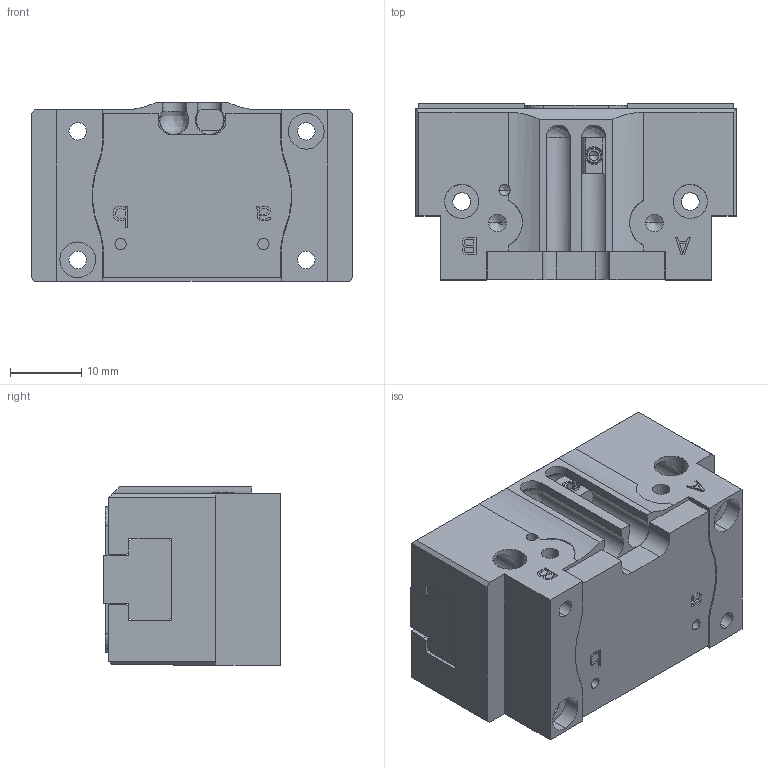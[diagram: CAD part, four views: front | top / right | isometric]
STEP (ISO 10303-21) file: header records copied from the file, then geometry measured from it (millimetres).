
FILE_DESCRIPTION (( 'STEP AP214' ), '1' );
FILE_NAME ('FPT40A-1.STEP', '2021-09-18T00:30:25', ( 'DEEP' ), ( 'Microsoft' ), 'SwSTEP 2.0', 'SolidWorks 2016', '' );
FILE_SCHEMA (( 'AUTOMOTIVE_DESIGN' ));
Length unit declared in the file: millimetre
Products named in the file (12): FPT40A-1-003; FPT40A-1-004; FPT40A-1-005; FPT40A-1-002; FPT40A-1-001; FPT40A-1
Assembly tree (6 placements, depth 2):
  FPT40A-1-003
  FPT40A-1-004
  FPT40A-1-005
  FPT40A-1-002
  FPT40A-1-001
Bounding box: 45 x 24.7 x 25 mm (x, y, z)
Volume: 21627.3 mm3; surface area: 13201.1 mm2
Topology: 6 solids, 6 shells, 488 faces, 1296 edges, 824 vertices
Faces by surface type: plane 302, cylinder 130, cone 54, bspline 2
Entity records: 14314 total; most frequent: CARTESIAN_POINT 2709, ORIENTED_EDGE 2356, DIRECTION 2318, EDGE_CURVE 1178, VECTOR 876, LINE 876, VERTEX_POINT 770, AXIS2_PLACEMENT_3D 721
